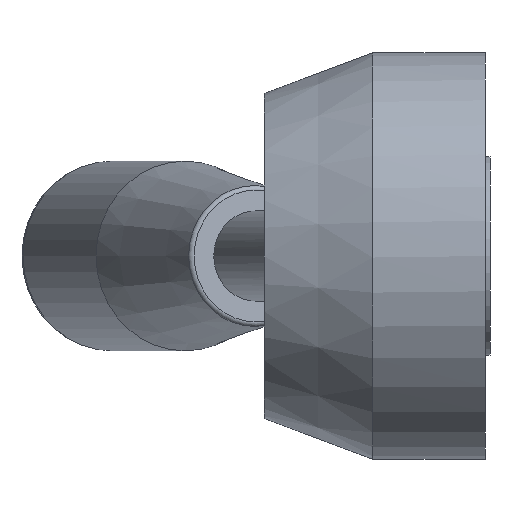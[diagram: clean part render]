
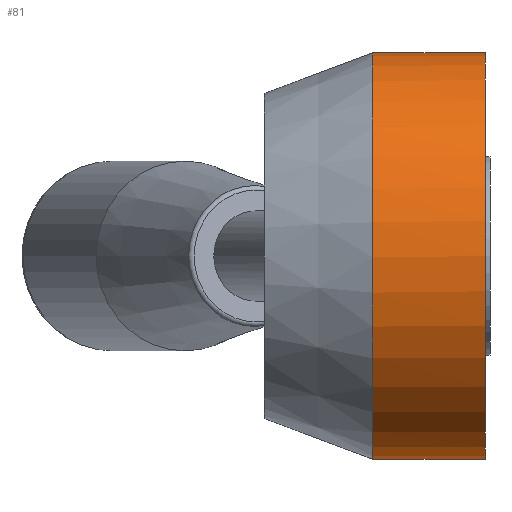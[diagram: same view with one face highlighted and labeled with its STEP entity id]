
A CAD part, left-side view. The second image highlights one B-rep face of the part: STEP entity #81.
In plain terms, the highlighted cylindrical face has radius 22.5 mm (diameter 45 mm), a full revolution.
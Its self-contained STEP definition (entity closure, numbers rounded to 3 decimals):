
#81 = ADVANCED_FACE( '', ( #132, #133 ), #134, .T. );
#132 = FACE_OUTER_BOUND( '', #228, .T. );
#133 = FACE_OUTER_BOUND( '', #229, .T. );
#134 = CYLINDRICAL_SURFACE( '', #230, 22.5 );
#228 = EDGE_LOOP( '', ( #353 ) );
#229 = EDGE_LOOP( '', ( #354, #355, #356, #357 ) );
#230 = AXIS2_PLACEMENT_3D( '', #358, #359, #360 );
#353 = ORIENTED_EDGE( '', *, *, #551, .F. );
#354 = ORIENTED_EDGE( '', *, *, #542, .F. );
#355 = ORIENTED_EDGE( '', *, *, #558, .T. );
#356 = ORIENTED_EDGE( '', *, *, #531, .F. );
#357 = ORIENTED_EDGE( '', *, *, #559, .F. );
#358 = CARTESIAN_POINT( '', ( 0., 0., 0. ) );
#359 = DIRECTION( '', ( 0., 1., 0. ) );
#360 = DIRECTION( '', ( 0., 0., -1. ) );
#531 = EDGE_CURVE( '', #592, #593, #594, .F. );
#542 = EDGE_CURVE( '', #611, #613, #614, .T. );
#551 = EDGE_CURVE( '', #630, #630, #631, .T. );
#558 = EDGE_CURVE( '', #611, #593, #644, .T. );
#559 = EDGE_CURVE( '', #613, #592, #645, .T. );
#592 = VERTEX_POINT( '', #695 );
#593 = VERTEX_POINT( '', #696 );
#594 = LINE( '', #697, #698 );
#611 = VERTEX_POINT( '', #729 );
#613 = VERTEX_POINT( '', #738 );
#614 = LINE( '', #739, #740 );
#630 = VERTEX_POINT( '', #757 );
#631 = CIRCLE( '', #758, 22.5 );
#644 = CIRCLE( '', #771, 22.5 );
#645 = CIRCLE( '', #772, 22.5 );
#695 = CARTESIAN_POINT( '', ( 16.955, 2., -14.791 ) );
#696 = CARTESIAN_POINT( '', ( 16.955, 13., -14.791 ) );
#697 = CARTESIAN_POINT( '', ( 16.955, 0., -14.791 ) );
#698 = VECTOR( '', #830, 1000. );
#729 = CARTESIAN_POINT( '', ( 16.955, 13., 14.791 ) );
#738 = CARTESIAN_POINT( '', ( 16.955, 2., 14.791 ) );
#739 = CARTESIAN_POINT( '', ( 16.955, 0., 14.791 ) );
#740 = VECTOR( '', #841, 1000. );
#757 = CARTESIAN_POINT( '', ( 0., 0.5, -22.5 ) );
#758 = AXIS2_PLACEMENT_3D( '', #864, #865, #866 );
#771 = AXIS2_PLACEMENT_3D( '', #885, #886, #887 );
#772 = AXIS2_PLACEMENT_3D( '', #888, #889, #890 );
#830 = DIRECTION( '', ( 0., -1., 0. ) );
#841 = DIRECTION( '', ( 0., -1., 0. ) );
#864 = CARTESIAN_POINT( '', ( 0., 0.5, 0. ) );
#865 = DIRECTION( '', ( 0., -1., 0. ) );
#866 = DIRECTION( '', ( 0., 0., -1. ) );
#885 = CARTESIAN_POINT( '', ( 0., 13., 0. ) );
#886 = DIRECTION( '', ( 0., -1., 0. ) );
#887 = DIRECTION( '', ( 0., 0., -1. ) );
#888 = CARTESIAN_POINT( '', ( 0., 2., 0. ) );
#889 = DIRECTION( '', ( 0., 1., 0. ) );
#890 = DIRECTION( '', ( 0., 0., 1. ) );
